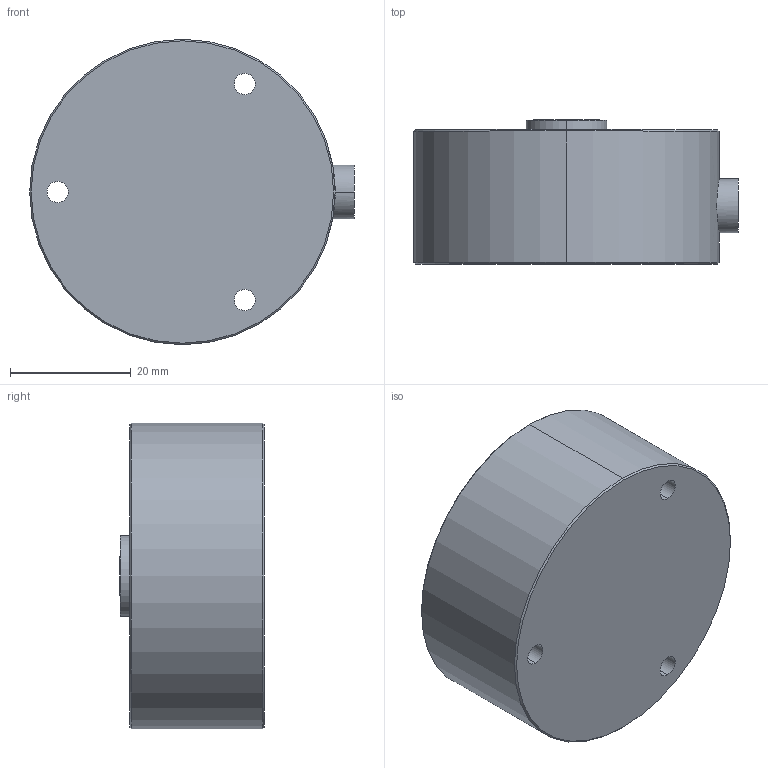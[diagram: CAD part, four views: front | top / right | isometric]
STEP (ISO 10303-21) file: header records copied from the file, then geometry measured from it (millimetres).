
FILE_DESCRIPTION (( 'STEP AP214' ), '1' );
FILE_NAME ('SS1406-10KLB.STEP', '2024-08-19T18:16:07', ( '' ), ( '' ), 'SwSTEP 2.0', 'SolidWorks 2008', '' );
FILE_SCHEMA (( 'AUTOMOTIVE_DESIGN' ));
Length unit declared in the file: inch
Products named in the file (1): SS1406-10KLB
Bounding box: 53.72 x 23.93 x 50.55 mm (x, y, z)
Volume: 43636 mm3; surface area: 8632.4 mm2
Topology: 1 solids, 1 shells, 30 faces, 66 edges, 43 vertices
Faces by surface type: cylinder 18, plane 6, cone 4, sphere 2
Entity records: 949 total; most frequent: CARTESIAN_POINT 206, DIRECTION 168, ORIENTED_EDGE 132, AXIS2_PLACEMENT_3D 73, EDGE_CURVE 66, VERTEX_POINT 43, CIRCLE 42, EDGE_LOOP 41
